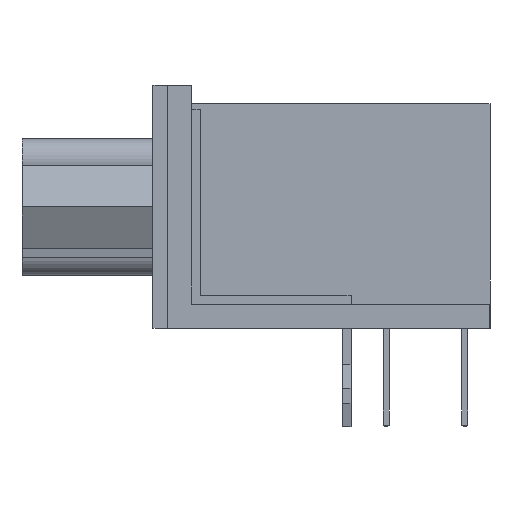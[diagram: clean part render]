
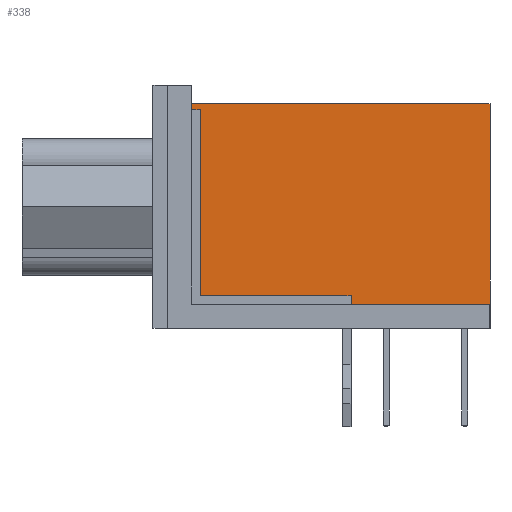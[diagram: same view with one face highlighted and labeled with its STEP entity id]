
A CAD part, left-side view. The second image highlights one B-rep face of the part: STEP entity #338.
In plain terms, the highlighted planar face has unit normal (-1, 0, 0).
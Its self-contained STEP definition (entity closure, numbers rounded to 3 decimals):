
#300=CARTESIAN_POINT('',(-5.156,-1.57,7.26));
#299=VERTEX_POINT('',#300);
#310=CARTESIAN_POINT('',(-5.156,-11.199,7.26));
#309=VERTEX_POINT('',#310);
#308=EDGE_CURVE('',#309,#299,#313,.T.);
#313=LINE('',#310,#315);
#315=VECTOR('',#316,9.629);
#316=DIRECTION('',(0.0,1.0,0.0));
#338=ADVANCED_FACE('',(#344),#339,.T.);
#339=PLANE('',#340);
#340=AXIS2_PLACEMENT_3D('',#341,#342,#343);
#341=CARTESIAN_POINT('',(-5.156,-1.57,0.785));
#342=DIRECTION('',(-1.0,0.0,0.0));
#343=DIRECTION('',(0.,0.,1.));
#344=FACE_OUTER_BOUND('',#345,.T.);
#345=EDGE_LOOP('',(#346,#356,#366,#376));
#349=CARTESIAN_POINT('',(-5.156,-11.199,0.785));
#348=VERTEX_POINT('',#349);
#351=CARTESIAN_POINT('',(-5.156,-1.57,0.785));
#350=VERTEX_POINT('',#351);
#347=EDGE_CURVE('',#348,#350,#352,.T.);
#352=LINE('',#349,#354);
#354=VECTOR('',#355,9.629);
#355=DIRECTION('',(0.0,1.0,0.0));
#346=ORIENTED_EDGE('',*,*,#347,.F.);
#357=EDGE_CURVE('',#309,#348,#362,.T.);
#362=LINE('',#310,#364);
#364=VECTOR('',#365,6.475);
#365=DIRECTION('',(0.0,0.0,-1.0));
#356=ORIENTED_EDGE('',*,*,#357,.F.);
#366=ORIENTED_EDGE('',*,*,#308,.T.);
#377=EDGE_CURVE('',#350,#299,#382,.T.);
#382=LINE('',#351,#384);
#384=VECTOR('',#385,6.475);
#385=DIRECTION('',(0.0,0.0,1.0));
#376=ORIENTED_EDGE('',*,*,#377,.F.);
